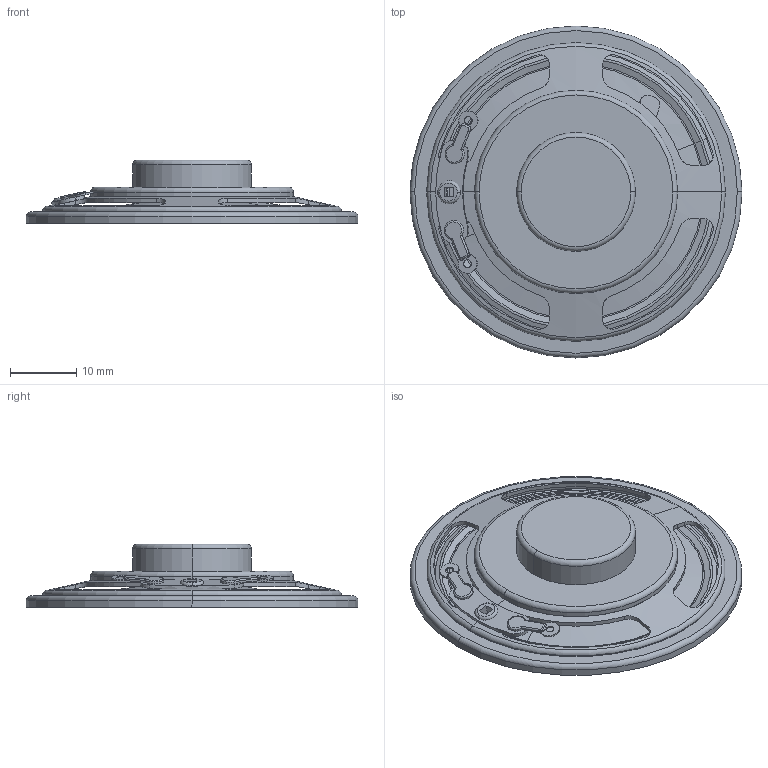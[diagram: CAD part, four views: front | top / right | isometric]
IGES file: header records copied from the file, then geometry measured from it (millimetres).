
Global section: file name: No Iges File Name specified; native system: AutoDesk Inventor R12.0; preprocessor: AutoDesk Inventor Iges Exporter R12.0; date: 20090223.083048; units: millimetre
Bounding box: 50 x 50 x 9.6 mm (x, y, z)
Volume: 1924.1 mm3; surface area: 10311.5 mm2
Topology: 3 solids, 3 shells, 223 faces, 581 edges, 375 vertices
Faces by surface type: revolution 63, plane 54, cylinder 33, bspline 33, torus 28, cone 12
